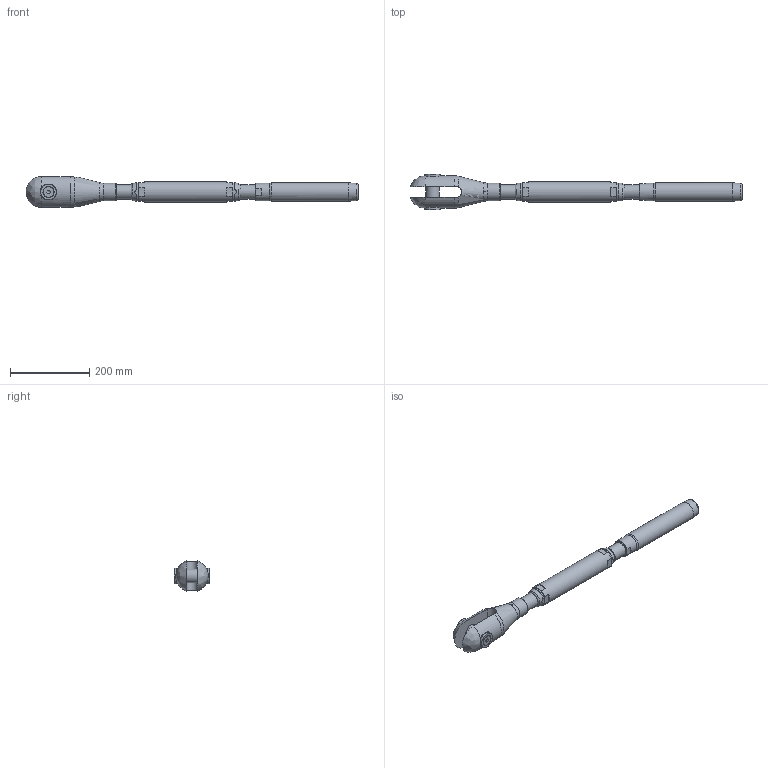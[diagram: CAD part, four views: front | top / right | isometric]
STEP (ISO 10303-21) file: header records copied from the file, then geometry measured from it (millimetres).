
FILE_DESCRIPTION(/* description */ (''),/* implementation_level */ '2;1');
FILE_NAME(/* name */ 'TBC 24_1,4462',/* time_stamp */ '2023-05-23T18:17:11+02:00',/* author */ (''),/* organization */ (''),/* preprocessor_version */ 'ST-DEVELOPER v16.5',/* originating_system */ 'Rhino 7.22',/* authorisation */ '');
FILE_SCHEMA (('CONFIG_CONTROL_DESIGN'));
Length unit declared in the file: millimetre
Products named in the file (1): Document
Bounding box: 835.69 x 89.67 x 77.43 mm (x, y, z)
Volume: 1604125.2 mm3; surface area: 240563.6 mm2
Topology: 10 solids, 10 shells, 140 faces, 383 edges, 265 vertices
Faces by surface type: plane 65, bspline 40, cylinder 35
Full cylindrical faces by diameter (mm): 11.835 x2, 14 x2, 14.5 x2, 26.52 x2, 32.752 x4, 34 x1, 36 x4, 40 x3, 44.5 x2, 46.8 x1, 52 x1
Entity records: 5907 total; most frequent: CARTESIAN_POINT 3478, ORIENTED_EDGE 758, EDGE_CURVE 379, VERTEX_POINT 265, EDGE_LOOP 160, B_SPLINE_CURVE_WITH_KNOTS 157, ADVANCED_FACE 140, FACE_OUTER_BOUND 140
